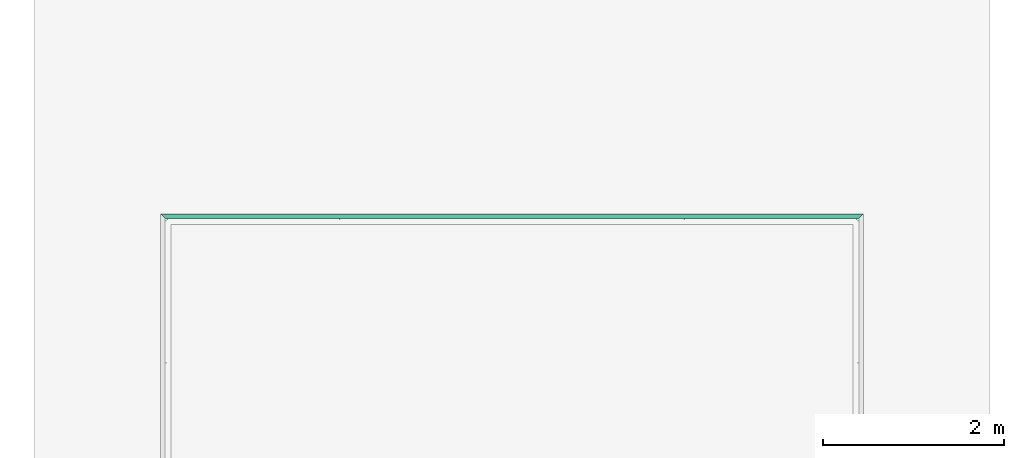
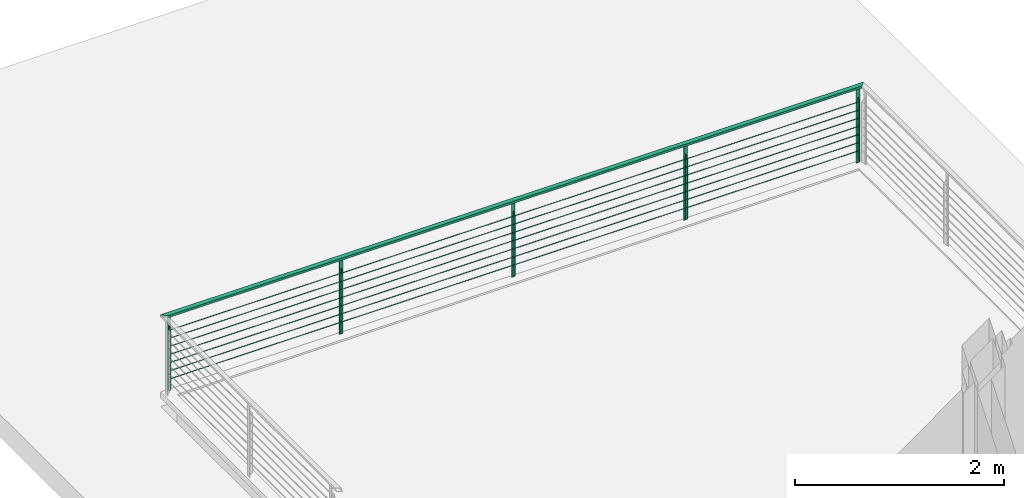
# One storey, part 21 of 24: 1 distribution element.
"""IFC2X3 building model written with IfcOpenShell, lengths in millimetres."""

import ifcopenshell
import ifcopenshell.guid

model = None  # the IFC model being written
_history = None  # IfcOwnerHistory: only IFC2X3 demands one
_inside = {}  # id of a spatial element -> (the spatial element, [elements in it])
_under = {}  # id of a project, library or spatial element -> (it, [spatial elements below it])
_declared = {}  # id of a project -> (the project, [libraries it declares])
_typed = {}  # id of a type object -> (the type object, [elements of that type])
_made_of = {}  # id of a material, layer set ... -> (it, [elements and type objects made of it])


def new_model(schema):
    """Start an empty IFC model of exactly this schema.

    Asked for "IFC4X3", IfcOpenShell would pick the latest addendum, in which some entities
    have other attributes; the version numbers below select the first issue.
    IFC2X3 requires an IfcOwnerHistory on every rooted entity: one is made here for all.
    """
    global model, _history
    if schema == "IFC4X3":
        model = ifcopenshell.file(schema_version=(4, 3, 0, 0))
    else:
        model = ifcopenshell.file(schema=schema)
    _inside.clear()
    _under.clear()
    _declared.clear()
    _typed.clear()
    _made_of.clear()
    _history = None
    if model.schema == "IFC2X3":
        org = make("IfcOrganization", Name="unknown")
        user = make(
            "IfcPersonAndOrganization",
            ThePerson=make("IfcPerson", FamilyName="unknown"),
            TheOrganization=org,
        )
        app = make(
            "IfcApplication",
            ApplicationDeveloper=org,
            Version="unknown",
            ApplicationFullName="unknown",
            ApplicationIdentifier="unknown",
        )
        _history = make(
            "IfcOwnerHistory",
            OwningUser=user,
            OwningApplication=app,
            ChangeAction="ADDED",
            CreationDate=0,
        )
    return model


def make(cls, **values):
    """One entity of the class cls with the attributes given. An attribute that is None is left unset."""
    return model.create_entity(
        cls, **{name: value for name, value in values.items() if value is not None}
    )


def entity(cls, *values):
    """Any entity or typed value of the class cls, its attributes in the order of the schema. None: left unset."""
    e = model.create_entity(cls)
    for i, value in enumerate(values):
        if value is not None:
            e[i] = value
    return e


def rooted(cls, **values):
    """An entity with a GlobalId (a new one), such as an element, a storey or a relation."""
    return make(cls, GlobalId=ifcopenshell.guid.new(), OwnerHistory=_history, **values)


def si_unit(unit_type, name, prefix=None):
    """IfcSIUnit, for example si_unit("LENGTHUNIT", "METRE", prefix="MILLI")."""
    return make("IfcSIUnit", UnitType=unit_type, Prefix=prefix, Name=name)


def converted_unit(unit_type, name, factor, base, dimensions=None, offset=None):
    """IfcConversionBasedUnit, such as the inch: factor (a typed value) times the base unit."""
    return make(
        "IfcConversionBasedUnit"
        if offset is None
        else "IfcConversionBasedUnitWithOffset",
        ConversionOffset=offset,
        Dimensions=None
        if dimensions is None
        else entity("IfcDimensionalExponents", *dimensions),
        UnitType=unit_type,
        Name=name,
        ConversionFactor=make(
            "IfcMeasureWithUnit", ValueComponent=factor, UnitComponent=base
        ),
    )


def money_unit(currency):
    """IfcMonetaryUnit."""
    return make("IfcMonetaryUnit", Currency=currency)


def assignment(units):
    """IfcUnitAssignment: the units of a project."""
    return None if units is None else make("IfcUnitAssignment", Units=units)


def point(xyz):
    """IfcCartesianPoint."""
    return None if xyz is None else make("IfcCartesianPoint", Coordinates=xyz)


def direction(xyz):
    """IfcDirection."""
    return None if xyz is None else make("IfcDirection", DirectionRatios=xyz)


def frame(location, z_axis=None, x_axis=None):
    """IfcAxis2Placement3D, a coordinate frame: its origin and axes. An axis left out is left unset."""
    return make(
        "IfcAxis2Placement3D",
        Location=point(location),
        Axis=direction(z_axis),
        RefDirection=direction(x_axis),
    )


def origin_with_axes():
    """The frame at (0, 0, 0) with the z axis (0, 0, 1) and the x axis (1, 0, 0) written out."""
    return frame((0.0, 0.0, 0.0), z_axis=(0.0, 0.0, 1.0), x_axis=(1.0, 0.0, 0.0))


def place(relative_to, where):
    """IfcLocalPlacement: puts the frame where relative to a parent placement (None: the world)."""
    return make(
        "IfcLocalPlacement", PlacementRelTo=relative_to, RelativePlacement=where
    )


def context(
    kind, dimensions, precision=None, world=None, true_north=None, identifier=None
):
    """IfcGeometricRepresentationContext, for example the 3D "Model" context."""
    return make(
        "IfcGeometricRepresentationContext",
        ContextIdentifier=identifier,
        ContextType=kind,
        CoordinateSpaceDimension=dimensions,
        Precision=precision,
        WorldCoordinateSystem=world,
        TrueNorth=true_north,
    )


def subcontext(parent, identifier, kind, view, scale=None):
    """IfcGeometricRepresentationSubContext, for example "Body" below "Model"."""
    return make(
        "IfcGeometricRepresentationSubContext",
        ContextIdentifier=identifier,
        ContextType=kind,
        ParentContext=parent,
        TargetScale=scale,
        TargetView=view,
    )


def project(units=None, contexts=None):
    """IfcProject with its units and contexts."""
    return rooted(
        "IfcProject",
        Name="project",
        RepresentationContexts=contexts,
        UnitsInContext=assignment(units),
    )


def spatial(cls, under=None, at=None, **own):
    """A site, building, storey or space (cls), placed at a placement, below another one or the project."""
    s = rooted(cls, ObjectPlacement=at, **own)
    if under is not None:
        _under.setdefault(under.id(), (under, []))[1].append(s)
    return s


def faces_of(points, faces, orient=None, outer=None):
    """IfcFace entities. A face is a list of loops; a loop is a list of indices into points, from 0.

    orient and outer hold one flag for each loop. By default every Orientation is true, the
    first loop of a face is its IfcFaceOuterBound and the others are IfcFaceBound.
    """
    made = []
    for i, loops in enumerate(faces):
        bounds = []
        for j, loop in enumerate(loops):
            is_outer = j == 0 if outer is None else outer[i][j]
            bounds.append(
                make(
                    "IfcFaceOuterBound" if is_outer else "IfcFaceBound",
                    Bound=make("IfcPolyLoop", Polygon=[points[k] for k in loop]),
                    Orientation=True if orient is None else orient[i][j],
                )
            )
        made.append(make("IfcFace", Bounds=bounds))
    return made


def faceted_brep(points, faces, orient=None, outer=None, voids=None):
    """IfcFacetedBrep: a solid bounded by flat faces; with voids (closed shells), ...WithVoids."""
    shared = [point(p) for p in points]
    hull = make("IfcClosedShell", CfsFaces=faces_of(shared, faces, orient, outer))
    if voids is None:
        return make("IfcFacetedBrep", Outer=hull)
    return make(
        "IfcFacetedBrepWithVoids",
        Outer=hull,
        Voids=[
            make(cls, CfsFaces=faces_of(shared, fs, o, b)) for cls, fs, o, b in voids
        ],
    )


def shape(context_of_items, identifier, shape_type, items):
    """IfcShapeRepresentation: the items that make up one representation, for example the "Body"."""
    return make(
        "IfcShapeRepresentation",
        ContextOfItems=context_of_items,
        RepresentationIdentifier=identifier,
        RepresentationType=shape_type,
        Items=items,
    )


def material(Name=None, Category=None):
    """IfcMaterial."""
    return make("IfcMaterial", Name=Name, Category=Category)


def made_of(thing, what):
    """Note that an element or type object is made of a material, layer set ...; save() writes the relation."""
    if what is not None:
        _made_of.setdefault(what.id(), (what, []))[1].append(thing)
    return thing


def type_object(cls, material=None, **own):
    """A type object (cls), such as IfcWallType, which elements share."""
    return made_of(rooted(cls, **own), material)


def element(
    cls,
    number,
    at=None,
    inside=None,
    cuts=None,
    type_object=None,
    material=None,
    context=None,
    identifier="Body",
    shape_type=None,
    held_by="IfcProductDefinitionShape",
    body=None,
    shapes=None,
    **own,
):
    """One element of the class cls, such as IfcWall. Its Tag is "e" and its number.

    at: its placement. inside: the storey or other place that contains it. cuts: it is an
    opening in that element (IfcRelVoidsElement). A single representation is given by context,
    identifier, shape_type and body (its items); several are given by shapes. held_by: the class
    of the entity that holds the representations. save() writes the other relations.
    """
    e = rooted(cls, Tag="e%d" % number, ObjectPlacement=at, **own)
    if body is not None:
        shapes = [shape(context, identifier, shape_type, body)]
    if shapes is not None:
        e.Representation = make(held_by, Representations=shapes)
    if inside is not None:
        _inside.setdefault(inside.id(), (inside, []))[1].append(e)
    if cuts is not None:
        rooted(
            "IfcRelVoidsElement", RelatingBuildingElement=cuts, RelatedOpeningElement=e
        )
    if type_object is not None:
        _typed.setdefault(type_object.id(), (type_object, []))[1].append(e)
    return made_of(e, material)


def aggregate(whole, parts):
    """IfcRelAggregates: a whole, such as a stair, and the parts it consists of."""
    return rooted("IfcRelAggregates", RelatingObject=whole, RelatedObjects=parts)


def save(model, path):
    """Write the relations noted so far, then the file.

    IfcRelAggregates (storeys below a building ...), IfcRelContainedInSpatialStructure (elements
    in a storey), IfcRelDefinesByType, IfcRelAssociatesMaterial and IfcRelDeclares: one each for
    every whole, place, type object, material and project.
    """
    for whole, parts in _under.values():
        aggregate(whole, parts)
    for where, things in _inside.values():
        rooted(
            "IfcRelContainedInSpatialStructure",
            RelatedElements=things,
            RelatingStructure=where,
        )
    for kind, things in _typed.values():
        rooted("IfcRelDefinesByType", RelatedObjects=things, RelatingType=kind)
    for what, things in _made_of.values():
        rooted("IfcRelAssociatesMaterial", RelatedObjects=things, RelatingMaterial=what)
    for by, libraries in _declared.values():
        rooted("IfcRelDeclares", RelatingContext=by, RelatedDefinitions=libraries)
    model.write(path)


model = new_model("IFC2X3")

# Units and contexts
model_context = context("Model", 3, precision=1e-05, world=origin_with_axes(), true_north=direction((0.0, 1.0)))
body_context = subcontext(model_context, "Body", "Model", "MODEL_VIEW")
ifc_project = project(units=[si_unit("LENGTHUNIT", "METRE", prefix="MILLI"), si_unit("AREAUNIT", "SQUARE_METRE"), si_unit("VOLUMEUNIT", "CUBIC_METRE"), converted_unit("PLANEANGLEUNIT", "DEGREE", entity("IfcPlaneAngleMeasure", 0.0174532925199), si_unit("PLANEANGLEUNIT", "RADIAN"), dimensions=[0, 0, 0, 0, 0, 0, 0]), si_unit("SOLIDANGLEUNIT", "STERADIAN"), money_unit("USD"), converted_unit("TIMEUNIT", "Year", entity("IfcTimeMeasure", 31556926.0), si_unit("TIMEUNIT", "SECOND"), dimensions=[0, 0, 0, 0, 0, 0, 0]), si_unit("MASSUNIT", "GRAM"), si_unit("THERMODYNAMICTEMPERATUREUNIT", "DEGREE_CELSIUS"), si_unit("LUMINOUSINTENSITYUNIT", "LUMEN")], contexts=[model_context])

# Site, building, storey
site_placement = place(None, origin_with_axes())
site = spatial("IfcSite", under=ifc_project, at=site_placement, Name="Grove Residential", CompositionType="ELEMENT")
building_placement = place(site_placement, origin_with_axes())
building = spatial("IfcBuilding", under=site, at=building_placement, Name="Building", CompositionType="ELEMENT")
storey_placement = place(building_placement, frame((0.0, 0.0, 3740.0), z_axis=(0.0, 0.0, 1.0), x_axis=(1.0, 0.0, 0.0)))
storey = spatial("IfcBuildingStorey", under=building, at=storey_placement, Name="First Floor", CompositionType="ELEMENT", Elevation=3740.0)

# Distribution element
ifc_material = material(Name="Background")
distribution_element_type = type_object("IfcDistributionElementType", Name="Rail Wired 02 20")
distribution_element_placement = place(storey_placement, frame((1524.99988526, 12775.0, -80.0), z_axis=(0.0, 0.0, 1.0), x_axis=(1.0, 0.0, 0.0)))
element("IfcDistributionElement", 1, at=distribution_element_placement, inside=storey, type_object=distribution_element_type, material=ifc_material, Name="FU - 001", context=body_context, shape_type="Brep", body=[
    faceted_brep([(-25.0, 25.0, 875.0), (-25.0, 25.0, 875.0), (-25.0, 25.0, 900.0), (-25.0, 25.0, 900.0), (7725.00011474, 25.0, 875.0), (7725.00011474, 25.0, 875.0), (7675.00011474, -25.0, 875.0), (25.0, -25.0, 875.0), (25.0, -25.0, 900.0), (7675.00011474, -25.0, 900.0), (7725.00011474, 25.0, 900.0), (7725.00011474, 25.0, 900.0)], [[[0, 1, 2, 3]], [[0, 4, 5, 6, 7, 1]], [[1, 7, 8, 2]], [[3, 2, 8, 9, 10, 11]], [[4, 0, 3, 11]], [[5, 4, 11, 10]], [[6, 5, 10, 9]], [[7, 6, 9, 8]]]),
    faceted_brep([(30.0, -2.0, 0.0), (70.0, -2.0, 0.0), (70.0, -2.0, 871.0), (30.0, -2.0, 871.0), (30.0, 2.0, 0.0), (70.0, 2.0, 0.0), (70.0, 2.0, 871.0), (30.0, 2.0, 871.0)], [[[0, 1, 2, 3]], [[0, 4, 5, 1]], [[1, 5, 6, 2]], [[3, 2, 6, 7]], [[4, 0, 3, 7]], [[5, 4, 7, 6]]]),
    faceted_brep([(52.0, -38.0, 36.0), (52.0, -38.0, 731.0), (48.0, -38.0, 731.0), (48.0, -38.0, 36.0), (52.0, -2.0, 0.0), (52.0, -2.0, 767.0), (48.0, -2.0, 767.0), (48.0, -2.0, 0.0)], [[[0, 1, 2, 3]], [[0, 4, 5, 1]], [[1, 5, 6, 2]], [[3, 2, 6, 7]], [[4, 0, 3, 7]], [[5, 4, 7, 6]]]),
    faceted_brep([(1930.00002868, -2.0, 0.0), (1970.00002868, -2.0, 0.0), (1970.00002868, -2.0, 871.0), (1930.00002868, -2.0, 871.0), (1930.00002868, 2.0, 0.0), (1970.00002868, 2.0, 0.0), (1970.00002868, 2.0, 871.0), (1930.00002868, 2.0, 871.0)], [[[0, 1, 2, 3]], [[0, 4, 5, 1]], [[1, 5, 6, 2]], [[3, 2, 6, 7]], [[4, 0, 3, 7]], [[5, 4, 7, 6]]]),
    faceted_brep([(1952.00002868, -38.0, 36.0), (1952.00002868, -38.0, 731.0), (1948.00002868, -38.0, 731.0), (1948.00002868, -38.0, 36.0), (1952.00002868, -2.0, 0.0), (1952.00002868, -2.0, 767.0), (1948.00002868, -2.0, 767.0), (1948.00002868, -2.0, 0.0)], [[[0, 1, 2, 3]], [[0, 4, 5, 1]], [[1, 5, 6, 2]], [[3, 2, 6, 7]], [[4, 0, 3, 7]], [[5, 4, 7, 6]]]),
    faceted_brep([(3830.00005737, -2.0, 0.0), (3870.00005737, -2.0, 0.0), (3870.00005737, -2.0, 871.0), (3830.00005737, -2.0, 871.0), (3830.00005737, 2.0, 0.0), (3870.00005737, 2.0, 0.0), (3870.00005737, 2.0, 871.0), (3830.00005737, 2.0, 871.0)], [[[0, 1, 2, 3]], [[0, 4, 5, 1]], [[1, 5, 6, 2]], [[3, 2, 6, 7]], [[4, 0, 3, 7]], [[5, 4, 7, 6]]]),
    faceted_brep([(3852.00005737, -38.0, 36.0), (3852.00005737, -38.0, 731.0), (3848.00005737, -38.0, 731.0), (3848.00005737, -38.0, 36.0), (3852.00005737, -2.0, 0.0), (3852.00005737, -2.0, 767.0), (3848.00005737, -2.0, 767.0), (3848.00005737, -2.0, 0.0)], [[[0, 1, 2, 3]], [[0, 4, 5, 1]], [[1, 5, 6, 2]], [[3, 2, 6, 7]], [[4, 0, 3, 7]], [[5, 4, 7, 6]]]),
    faceted_brep([(5730.00008605, -2.0, 0.0), (5770.00008605, -2.0, 0.0), (5770.00008605, -2.0, 871.0), (5730.00008605, -2.0, 871.0), (5730.00008605, 2.0, 0.0), (5770.00008605, 2.0, 0.0), (5770.00008605, 2.0, 871.0), (5730.00008605, 2.0, 871.0)], [[[0, 1, 2, 3]], [[0, 4, 5, 1]], [[1, 5, 6, 2]], [[3, 2, 6, 7]], [[4, 0, 3, 7]], [[5, 4, 7, 6]]]),
    faceted_brep([(5752.00008605, -38.0, 36.0), (5752.00008605, -38.0, 731.0), (5748.00008605, -38.0, 731.0), (5748.00008605, -38.0, 36.0), (5752.00008605, -2.0, 0.0), (5752.00008605, -2.0, 767.0), (5748.00008605, -2.0, 767.0), (5748.00008605, -2.0, 0.0)], [[[0, 1, 2, 3]], [[0, 4, 5, 1]], [[1, 5, 6, 2]], [[3, 2, 6, 7]], [[4, 0, 3, 7]], [[5, 4, 7, 6]]]),
    faceted_brep([(7630.00011474, -2.0, 0.0), (7670.00011474, -2.0, 0.0), (7670.00011474, -2.0, 871.0), (7630.00011474, -2.0, 871.0), (7630.00011474, 2.0, 0.0), (7670.00011474, 2.0, 0.0), (7670.00011474, 2.0, 871.0), (7630.00011474, 2.0, 871.0)], [[[0, 1, 2, 3]], [[0, 4, 5, 1]], [[1, 5, 6, 2]], [[3, 2, 6, 7]], [[4, 0, 3, 7]], [[5, 4, 7, 6]]]),
    faceted_brep([(7652.00011474, -38.0, 36.0), (7652.00011474, -38.0, 731.0), (7648.00011474, -38.0, 731.0), (7648.00011474, -38.0, 36.0), (7652.00011474, -2.0, 0.0), (7652.00011474, -2.0, 767.0), (7648.00011474, -2.0, 767.0), (7648.00011474, -2.0, 0.0)], [[[0, 1, 2, 3]], [[0, 4, 5, 1]], [[1, 5, 6, 2]], [[3, 2, 6, 7]], [[4, 0, 3, 7]], [[5, 4, 7, 6]]]),
    faceted_brep([(20.0, -15.0, 871.0), (80.0, -15.0, 871.0), (80.0, -15.0, 875.0), (20.0, -15.0, 875.0), (20.0, 15.0, 871.0), (80.0, 15.0, 871.0), (80.0, 15.0, 875.0), (20.0, 15.0, 875.0)], [[[0, 1, 2, 3]], [[0, 4, 5, 1]], [[1, 5, 6, 2]], [[3, 2, 6, 7]], [[4, 0, 3, 7]], [[5, 4, 7, 6]]]),
    faceted_brep([(1920.00002868, -15.0, 871.0), (1980.00002868, -15.0, 871.0), (1980.00002868, -15.0, 875.0), (1920.00002868, -15.0, 875.0), (1920.00002868, 15.0, 871.0), (1980.00002868, 15.0, 871.0), (1980.00002868, 15.0, 875.0), (1920.00002868, 15.0, 875.0)], [[[0, 1, 2, 3]], [[0, 4, 5, 1]], [[1, 5, 6, 2]], [[3, 2, 6, 7]], [[4, 0, 3, 7]], [[5, 4, 7, 6]]]),
    faceted_brep([(3820.00005737, -15.0, 871.0), (3880.00005737, -15.0, 871.0), (3880.00005737, -15.0, 875.0), (3820.00005737, -15.0, 875.0), (3820.00005737, 15.0, 871.0), (3880.00005737, 15.0, 871.0), (3880.00005737, 15.0, 875.0), (3820.00005737, 15.0, 875.0)], [[[0, 1, 2, 3]], [[0, 4, 5, 1]], [[1, 5, 6, 2]], [[3, 2, 6, 7]], [[4, 0, 3, 7]], [[5, 4, 7, 6]]]),
    faceted_brep([(5720.00008605, -15.0, 871.0), (5780.00008605, -15.0, 871.0), (5780.00008605, -15.0, 875.0), (5720.00008605, -15.0, 875.0), (5720.00008605, 15.0, 871.0), (5780.00008605, 15.0, 871.0), (5780.00008605, 15.0, 875.0), (5720.00008605, 15.0, 875.0)], [[[0, 1, 2, 3]], [[0, 4, 5, 1]], [[1, 5, 6, 2]], [[3, 2, 6, 7]], [[4, 0, 3, 7]], [[5, 4, 7, 6]]]),
    faceted_brep([(7620.00011474, -15.0, 871.0), (7680.00011474, -15.0, 871.0), (7680.00011474, -15.0, 875.0), (7620.00011474, -15.0, 875.0), (7620.00011474, 15.0, 871.0), (7680.00011474, 15.0, 871.0), (7680.00011474, 15.0, 875.0), (7620.00011474, 15.0, 875.0)], [[[0, 1, 2, 3]], [[0, 4, 5, 1]], [[1, 5, 6, 2]], [[3, 2, 6, 7]], [[4, 0, 3, 7]], [[5, 4, 7, 6]]]),
    faceted_brep([(7630.00011474, -22.0, 155.0), (7630.00011474, -18.0, 155.0), (7650.00011474, -18.0, 155.0), (7650.00011474, -17.5, 155.0), (50.0, -17.5, 155.0), (50.0, -18.0, 155.0), (70.0, -18.0, 155.0), (70.0, -22.0, 155.0), (52.0, -22.0, 155.0), (52.0, -22.5, 155.0), (1948.00002868, -22.5, 155.0), (1948.00002868, -22.0, 155.0), (1930.00002868, -22.0, 155.0), (1930.00002868, -18.0, 155.0), (1970.00002868, -18.0, 155.0), (1970.00002868, -22.0, 155.0), (1952.00002868, -22.0, 155.0), (1952.00002868, -22.5, 155.0), (3848.00005737, -22.5, 155.0), (3848.00005737, -22.0, 155.0), (3830.00005737, -22.0, 155.0), (3830.00005737, -18.0, 155.0), (3870.00005737, -18.0, 155.0), (3870.00005737, -22.0, 155.0), (3852.00005737, -22.0, 155.0), (3852.00005737, -22.5, 155.0), (5748.00008605, -22.5, 155.0), (5748.00008605, -22.0, 155.0), (5730.00008605, -22.0, 155.0), (5730.00008605, -18.0, 155.0), (5770.00008605, -18.0, 155.0), (5770.00008605, -22.0, 155.0), (5752.00008605, -22.0, 155.0), (5752.00008605, -22.5, 155.0), (7648.00011474, -22.5, 155.0), (7648.00011474, -22.0, 155.0), (7630.00011474, -22.0, 150.0), (7630.00011474, -18.0, 150.0), (7650.00011474, -18.0, 150.0), (7650.00011474, -17.5, 150.0), (50.0, -17.5, 150.0), (50.0, -18.0, 150.0), (70.0, -18.0, 150.0), (70.0, -22.0, 150.0), (52.0, -22.0, 150.0), (52.0, -22.5, 150.0), (1948.00002868, -22.5, 150.0), (1948.00002868, -22.0, 150.0), (1930.00002868, -22.0, 150.0), (1930.00002868, -18.0, 150.0), (1970.00002868, -18.0, 150.0), (1970.00002868, -22.0, 150.0), (1952.00002868, -22.0, 150.0), (1952.00002868, -22.5, 150.0), (3848.00005737, -22.5, 150.0), (3848.00005737, -22.0, 150.0), (3830.00005737, -22.0, 150.0), (3830.00005737, -18.0, 150.0), (3870.00005737, -18.0, 150.0), (3870.00005737, -22.0, 150.0), (3852.00005737, -22.0, 150.0), (3852.00005737, -22.5, 150.0), (5748.00008605, -22.5, 150.0), (5748.00008605, -22.0, 150.0), (5730.00008605, -22.0, 150.0), (5730.00008605, -18.0, 150.0), (5770.00008605, -18.0, 150.0), (5770.00008605, -22.0, 150.0), (5752.00008605, -22.0, 150.0), (5752.00008605, -22.5, 150.0), (7648.00011474, -22.5, 150.0), (7648.00011474, -22.0, 150.0)], [[[0, 1, 2, 3, 4, 5, 6, 7, 8, 9, 10, 11, 12, 13, 14, 15, 16, 17, 18, 19, 20, 21, 22, 23, 24, 25, 26, 27, 28, 29, 30, 31, 32, 33, 34, 35]], [[1, 0, 36, 37]], [[38, 2, 1, 37]], [[2, 38, 39, 3]], [[3, 39, 40, 4]], [[41, 5, 4, 40]], [[6, 5, 41, 42]], [[7, 6, 42, 43]], [[44, 8, 7, 43]], [[9, 8, 44, 45]], [[46, 10, 9, 45]], [[47, 11, 10, 46]], [[11, 47, 48, 12]], [[13, 12, 48, 49]], [[14, 13, 49, 50]], [[15, 14, 50, 51]], [[52, 16, 15, 51]], [[17, 16, 52, 53]], [[54, 18, 17, 53]], [[55, 19, 18, 54]], [[19, 55, 56, 20]], [[21, 20, 56, 57]], [[22, 21, 57, 58]], [[23, 22, 58, 59]], [[60, 24, 23, 59]], [[25, 24, 60, 61]], [[62, 26, 25, 61]], [[63, 27, 26, 62]], [[27, 63, 64, 28]], [[29, 28, 64, 65]], [[30, 29, 65, 66]], [[31, 30, 66, 67]], [[68, 32, 31, 67]], [[33, 32, 68, 69]], [[33, 69, 70, 34]], [[71, 35, 34, 70]], [[0, 35, 71, 36]], [[36, 71, 70, 69, 68, 67, 66, 65, 64, 63, 62, 61, 60, 59, 58, 57, 56, 55, 54, 53, 52, 51, 50, 49, 48, 47, 46, 45, 44, 43, 42, 41, 40, 39, 38, 37]]]),
    faceted_brep([(7630.00011474, -22.0, 250.0), (7630.00011474, -18.0, 250.0), (7650.00011474, -18.0, 250.0), (7650.00011474, -17.5, 250.0), (50.0, -17.5, 250.0), (50.0, -18.0, 250.0), (70.0, -18.0, 250.0), (70.0, -22.0, 250.0), (52.0, -22.0, 250.0), (52.0, -22.5, 250.0), (1948.00002868, -22.5, 250.0), (1948.00002868, -22.0, 250.0), (1930.00002868, -22.0, 250.0), (1930.00002868, -18.0, 250.0), (1970.00002868, -18.0, 250.0), (1970.00002868, -22.0, 250.0), (1952.00002868, -22.0, 250.0), (1952.00002868, -22.5, 250.0), (3848.00005737, -22.5, 250.0), (3848.00005737, -22.0, 250.0), (3830.00005737, -22.0, 250.0), (3830.00005737, -18.0, 250.0), (3870.00005737, -18.0, 250.0), (3870.00005737, -22.0, 250.0), (3852.00005737, -22.0, 250.0), (3852.00005737, -22.5, 250.0), (5748.00008605, -22.5, 250.0), (5748.00008605, -22.0, 250.0), (5730.00008605, -22.0, 250.0), (5730.00008605, -18.0, 250.0), (5770.00008605, -18.0, 250.0), (5770.00008605, -22.0, 250.0), (5752.00008605, -22.0, 250.0), (5752.00008605, -22.5, 250.0), (7648.00011474, -22.5, 250.0), (7648.00011474, -22.0, 250.0), (7630.00011474, -22.0, 245.0), (7630.00011474, -18.0, 245.0), (7650.00011474, -18.0, 245.0), (7650.00011474, -17.5, 245.0), (50.0, -17.5, 245.0), (50.0, -18.0, 245.0), (70.0, -18.0, 245.0), (70.0, -22.0, 245.0), (52.0, -22.0, 245.0), (52.0, -22.5, 245.0), (1948.00002868, -22.5, 245.0), (1948.00002868, -22.0, 245.0), (1930.00002868, -22.0, 245.0), (1930.00002868, -18.0, 245.0), (1970.00002868, -18.0, 245.0), (1970.00002868, -22.0, 245.0), (1952.00002868, -22.0, 245.0), (1952.00002868, -22.5, 245.0), (3848.00005737, -22.5, 245.0), (3848.00005737, -22.0, 245.0), (3830.00005737, -22.0, 245.0), (3830.00005737, -18.0, 245.0), (3870.00005737, -18.0, 245.0), (3870.00005737, -22.0, 245.0), (3852.00005737, -22.0, 245.0), (3852.00005737, -22.5, 245.0), (5748.00008605, -22.5, 245.0), (5748.00008605, -22.0, 245.0), (5730.00008605, -22.0, 245.0), (5730.00008605, -18.0, 245.0), (5770.00008605, -18.0, 245.0), (5770.00008605, -22.0, 245.0), (5752.00008605, -22.0, 245.0), (5752.00008605, -22.5, 245.0), (7648.00011474, -22.5, 245.0), (7648.00011474, -22.0, 245.0)], [[[0, 1, 2, 3, 4, 5, 6, 7, 8, 9, 10, 11, 12, 13, 14, 15, 16, 17, 18, 19, 20, 21, 22, 23, 24, 25, 26, 27, 28, 29, 30, 31, 32, 33, 34, 35]], [[1, 0, 36, 37]], [[38, 2, 1, 37]], [[2, 38, 39, 3]], [[3, 39, 40, 4]], [[41, 5, 4, 40]], [[6, 5, 41, 42]], [[7, 6, 42, 43]], [[44, 8, 7, 43]], [[9, 8, 44, 45]], [[46, 10, 9, 45]], [[47, 11, 10, 46]], [[11, 47, 48, 12]], [[13, 12, 48, 49]], [[14, 13, 49, 50]], [[15, 14, 50, 51]], [[52, 16, 15, 51]], [[17, 16, 52, 53]], [[54, 18, 17, 53]], [[55, 19, 18, 54]], [[19, 55, 56, 20]], [[21, 20, 56, 57]], [[22, 21, 57, 58]], [[23, 22, 58, 59]], [[60, 24, 23, 59]], [[25, 24, 60, 61]], [[62, 26, 25, 61]], [[63, 27, 26, 62]], [[27, 63, 64, 28]], [[29, 28, 64, 65]], [[30, 29, 65, 66]], [[31, 30, 66, 67]], [[68, 32, 31, 67]], [[33, 32, 68, 69]], [[33, 69, 70, 34]], [[71, 35, 34, 70]], [[0, 35, 71, 36]], [[36, 71, 70, 69, 68, 67, 66, 65, 64, 63, 62, 61, 60, 59, 58, 57, 56, 55, 54, 53, 52, 51, 50, 49, 48, 47, 46, 45, 44, 43, 42, 41, 40, 39, 38, 37]]]),
    faceted_brep([(7630.00011474, -22.0, 345.0), (7630.00011474, -18.0, 345.0), (7650.00011474, -18.0, 345.0), (7650.00011474, -17.5, 345.0), (50.0, -17.5, 345.0), (50.0, -18.0, 345.0), (70.0, -18.0, 345.0), (70.0, -22.0, 345.0), (52.0, -22.0, 345.0), (52.0, -22.5, 345.0), (1948.00002868, -22.5, 345.0), (1948.00002868, -22.0, 345.0), (1930.00002868, -22.0, 345.0), (1930.00002868, -18.0, 345.0), (1970.00002868, -18.0, 345.0), (1970.00002868, -22.0, 345.0), (1952.00002868, -22.0, 345.0), (1952.00002868, -22.5, 345.0), (3848.00005737, -22.5, 345.0), (3848.00005737, -22.0, 345.0), (3830.00005737, -22.0, 345.0), (3830.00005737, -18.0, 345.0), (3870.00005737, -18.0, 345.0), (3870.00005737, -22.0, 345.0), (3852.00005737, -22.0, 345.0), (3852.00005737, -22.5, 345.0), (5748.00008605, -22.5, 345.0), (5748.00008605, -22.0, 345.0), (5730.00008605, -22.0, 345.0), (5730.00008605, -18.0, 345.0), (5770.00008605, -18.0, 345.0), (5770.00008605, -22.0, 345.0), (5752.00008605, -22.0, 345.0), (5752.00008605, -22.5, 345.0), (7648.00011474, -22.5, 345.0), (7648.00011474, -22.0, 345.0), (7630.00011474, -22.0, 340.0), (7630.00011474, -18.0, 340.0), (7650.00011474, -18.0, 340.0), (7650.00011474, -17.5, 340.0), (50.0, -17.5, 340.0), (50.0, -18.0, 340.0), (70.0, -18.0, 340.0), (70.0, -22.0, 340.0), (52.0, -22.0, 340.0), (52.0, -22.5, 340.0), (1948.00002868, -22.5, 340.0), (1948.00002868, -22.0, 340.0), (1930.00002868, -22.0, 340.0), (1930.00002868, -18.0, 340.0), (1970.00002868, -18.0, 340.0), (1970.00002868, -22.0, 340.0), (1952.00002868, -22.0, 340.0), (1952.00002868, -22.5, 340.0), (3848.00005737, -22.5, 340.0), (3848.00005737, -22.0, 340.0), (3830.00005737, -22.0, 340.0), (3830.00005737, -18.0, 340.0), (3870.00005737, -18.0, 340.0), (3870.00005737, -22.0, 340.0), (3852.00005737, -22.0, 340.0), (3852.00005737, -22.5, 340.0), (5748.00008605, -22.5, 340.0), (5748.00008605, -22.0, 340.0), (5730.00008605, -22.0, 340.0), (5730.00008605, -18.0, 340.0), (5770.00008605, -18.0, 340.0), (5770.00008605, -22.0, 340.0), (5752.00008605, -22.0, 340.0), (5752.00008605, -22.5, 340.0), (7648.00011474, -22.5, 340.0), (7648.00011474, -22.0, 340.0)], [[[0, 1, 2, 3, 4, 5, 6, 7, 8, 9, 10, 11, 12, 13, 14, 15, 16, 17, 18, 19, 20, 21, 22, 23, 24, 25, 26, 27, 28, 29, 30, 31, 32, 33, 34, 35]], [[1, 0, 36, 37]], [[38, 2, 1, 37]], [[2, 38, 39, 3]], [[3, 39, 40, 4]], [[41, 5, 4, 40]], [[6, 5, 41, 42]], [[7, 6, 42, 43]], [[44, 8, 7, 43]], [[9, 8, 44, 45]], [[46, 10, 9, 45]], [[47, 11, 10, 46]], [[11, 47, 48, 12]], [[13, 12, 48, 49]], [[14, 13, 49, 50]], [[15, 14, 50, 51]], [[52, 16, 15, 51]], [[17, 16, 52, 53]], [[54, 18, 17, 53]], [[55, 19, 18, 54]], [[19, 55, 56, 20]], [[21, 20, 56, 57]], [[22, 21, 57, 58]], [[23, 22, 58, 59]], [[60, 24, 23, 59]], [[25, 24, 60, 61]], [[62, 26, 25, 61]], [[63, 27, 26, 62]], [[27, 63, 64, 28]], [[29, 28, 64, 65]], [[30, 29, 65, 66]], [[31, 30, 66, 67]], [[68, 32, 31, 67]], [[33, 32, 68, 69]], [[33, 69, 70, 34]], [[71, 35, 34, 70]], [[0, 35, 71, 36]], [[36, 71, 70, 69, 68, 67, 66, 65, 64, 63, 62, 61, 60, 59, 58, 57, 56, 55, 54, 53, 52, 51, 50, 49, 48, 47, 46, 45, 44, 43, 42, 41, 40, 39, 38, 37]]]),
    faceted_brep([(7630.00011474, -22.0, 440.0), (7630.00011474, -18.0, 440.0), (7650.00011474, -18.0, 440.0), (7650.00011474, -17.5, 440.0), (50.0, -17.5, 440.0), (50.0, -18.0, 440.0), (70.0, -18.0, 440.0), (70.0, -22.0, 440.0), (52.0, -22.0, 440.0), (52.0, -22.5, 440.0), (1948.00002868, -22.5, 440.0), (1948.00002868, -22.0, 440.0), (1930.00002868, -22.0, 440.0), (1930.00002868, -18.0, 440.0), (1970.00002868, -18.0, 440.0), (1970.00002868, -22.0, 440.0), (1952.00002868, -22.0, 440.0), (1952.00002868, -22.5, 440.0), (3848.00005737, -22.5, 440.0), (3848.00005737, -22.0, 440.0), (3830.00005737, -22.0, 440.0), (3830.00005737, -18.0, 440.0), (3870.00005737, -18.0, 440.0), (3870.00005737, -22.0, 440.0), (3852.00005737, -22.0, 440.0), (3852.00005737, -22.5, 440.0), (5748.00008605, -22.5, 440.0), (5748.00008605, -22.0, 440.0), (5730.00008605, -22.0, 440.0), (5730.00008605, -18.0, 440.0), (5770.00008605, -18.0, 440.0), (5770.00008605, -22.0, 440.0), (5752.00008605, -22.0, 440.0), (5752.00008605, -22.5, 440.0), (7648.00011474, -22.5, 440.0), (7648.00011474, -22.0, 440.0), (7630.00011474, -22.0, 435.0), (7630.00011474, -18.0, 435.0), (7650.00011474, -18.0, 435.0), (7650.00011474, -17.5, 435.0), (50.0, -17.5, 435.0), (50.0, -18.0, 435.0), (70.0, -18.0, 435.0), (70.0, -22.0, 435.0), (52.0, -22.0, 435.0), (52.0, -22.5, 435.0), (1948.00002868, -22.5, 435.0), (1948.00002868, -22.0, 435.0), (1930.00002868, -22.0, 435.0), (1930.00002868, -18.0, 435.0), (1970.00002868, -18.0, 435.0), (1970.00002868, -22.0, 435.0), (1952.00002868, -22.0, 435.0), (1952.00002868, -22.5, 435.0), (3848.00005737, -22.5, 435.0), (3848.00005737, -22.0, 435.0), (3830.00005737, -22.0, 435.0), (3830.00005737, -18.0, 435.0), (3870.00005737, -18.0, 435.0), (3870.00005737, -22.0, 435.0), (3852.00005737, -22.0, 435.0), (3852.00005737, -22.5, 435.0), (5748.00008605, -22.5, 435.0), (5748.00008605, -22.0, 435.0), (5730.00008605, -22.0, 435.0), (5730.00008605, -18.0, 435.0), (5770.00008605, -18.0, 435.0), (5770.00008605, -22.0, 435.0), (5752.00008605, -22.0, 435.0), (5752.00008605, -22.5, 435.0), (7648.00011474, -22.5, 435.0), (7648.00011474, -22.0, 435.0)], [[[0, 1, 2, 3, 4, 5, 6, 7, 8, 9, 10, 11, 12, 13, 14, 15, 16, 17, 18, 19, 20, 21, 22, 23, 24, 25, 26, 27, 28, 29, 30, 31, 32, 33, 34, 35]], [[1, 0, 36, 37]], [[38, 2, 1, 37]], [[2, 38, 39, 3]], [[3, 39, 40, 4]], [[41, 5, 4, 40]], [[6, 5, 41, 42]], [[7, 6, 42, 43]], [[44, 8, 7, 43]], [[9, 8, 44, 45]], [[46, 10, 9, 45]], [[47, 11, 10, 46]], [[11, 47, 48, 12]], [[13, 12, 48, 49]], [[14, 13, 49, 50]], [[15, 14, 50, 51]], [[52, 16, 15, 51]], [[17, 16, 52, 53]], [[54, 18, 17, 53]], [[55, 19, 18, 54]], [[19, 55, 56, 20]], [[21, 20, 56, 57]], [[22, 21, 57, 58]], [[23, 22, 58, 59]], [[60, 24, 23, 59]], [[25, 24, 60, 61]], [[62, 26, 25, 61]], [[63, 27, 26, 62]], [[27, 63, 64, 28]], [[29, 28, 64, 65]], [[30, 29, 65, 66]], [[31, 30, 66, 67]], [[68, 32, 31, 67]], [[33, 32, 68, 69]], [[33, 69, 70, 34]], [[71, 35, 34, 70]], [[0, 35, 71, 36]], [[36, 71, 70, 69, 68, 67, 66, 65, 64, 63, 62, 61, 60, 59, 58, 57, 56, 55, 54, 53, 52, 51, 50, 49, 48, 47, 46, 45, 44, 43, 42, 41, 40, 39, 38, 37]]]),
    faceted_brep([(7630.00011474, -22.0, 535.0), (7630.00011474, -18.0, 535.0), (7650.00011474, -18.0, 535.0), (7650.00011474, -17.5, 535.0), (50.0, -17.5, 535.0), (50.0, -18.0, 535.0), (70.0, -18.0, 535.0), (70.0, -22.0, 535.0), (52.0, -22.0, 535.0), (52.0, -22.5, 535.0), (1948.00002868, -22.5, 535.0), (1948.00002868, -22.0, 535.0), (1930.00002868, -22.0, 535.0), (1930.00002868, -18.0, 535.0), (1970.00002868, -18.0, 535.0), (1970.00002868, -22.0, 535.0), (1952.00002868, -22.0, 535.0), (1952.00002868, -22.5, 535.0), (3848.00005737, -22.5, 535.0), (3848.00005737, -22.0, 535.0), (3830.00005737, -22.0, 535.0), (3830.00005737, -18.0, 535.0), (3870.00005737, -18.0, 535.0), (3870.00005737, -22.0, 535.0), (3852.00005737, -22.0, 535.0), (3852.00005737, -22.5, 535.0), (5748.00008605, -22.5, 535.0), (5748.00008605, -22.0, 535.0), (5730.00008605, -22.0, 535.0), (5730.00008605, -18.0, 535.0), (5770.00008605, -18.0, 535.0), (5770.00008605, -22.0, 535.0), (5752.00008605, -22.0, 535.0), (5752.00008605, -22.5, 535.0), (7648.00011474, -22.5, 535.0), (7648.00011474, -22.0, 535.0), (7630.00011474, -22.0, 530.0), (7630.00011474, -18.0, 530.0), (7650.00011474, -18.0, 530.0), (7650.00011474, -17.5, 530.0), (50.0, -17.5, 530.0), (50.0, -18.0, 530.0), (70.0, -18.0, 530.0), (70.0, -22.0, 530.0), (52.0, -22.0, 530.0), (52.0, -22.5, 530.0), (1948.00002868, -22.5, 530.0), (1948.00002868, -22.0, 530.0), (1930.00002868, -22.0, 530.0), (1930.00002868, -18.0, 530.0), (1970.00002868, -18.0, 530.0), (1970.00002868, -22.0, 530.0), (1952.00002868, -22.0, 530.0), (1952.00002868, -22.5, 530.0), (3848.00005737, -22.5, 530.0), (3848.00005737, -22.0, 530.0), (3830.00005737, -22.0, 530.0), (3830.00005737, -18.0, 530.0), (3870.00005737, -18.0, 530.0), (3870.00005737, -22.0, 530.0), (3852.00005737, -22.0, 530.0), (3852.00005737, -22.5, 530.0), (5748.00008605, -22.5, 530.0), (5748.00008605, -22.0, 530.0), (5730.00008605, -22.0, 530.0), (5730.00008605, -18.0, 530.0), (5770.00008605, -18.0, 530.0), (5770.00008605, -22.0, 530.0), (5752.00008605, -22.0, 530.0), (5752.00008605, -22.5, 530.0), (7648.00011474, -22.5, 530.0), (7648.00011474, -22.0, 530.0)], [[[0, 1, 2, 3, 4, 5, 6, 7, 8, 9, 10, 11, 12, 13, 14, 15, 16, 17, 18, 19, 20, 21, 22, 23, 24, 25, 26, 27, 28, 29, 30, 31, 32, 33, 34, 35]], [[1, 0, 36, 37]], [[38, 2, 1, 37]], [[2, 38, 39, 3]], [[3, 39, 40, 4]], [[41, 5, 4, 40]], [[6, 5, 41, 42]], [[7, 6, 42, 43]], [[44, 8, 7, 43]], [[9, 8, 44, 45]], [[46, 10, 9, 45]], [[47, 11, 10, 46]], [[11, 47, 48, 12]], [[13, 12, 48, 49]], [[14, 13, 49, 50]], [[15, 14, 50, 51]], [[52, 16, 15, 51]], [[17, 16, 52, 53]], [[54, 18, 17, 53]], [[55, 19, 18, 54]], [[19, 55, 56, 20]], [[21, 20, 56, 57]], [[22, 21, 57, 58]], [[23, 22, 58, 59]], [[60, 24, 23, 59]], [[25, 24, 60, 61]], [[62, 26, 25, 61]], [[63, 27, 26, 62]], [[27, 63, 64, 28]], [[29, 28, 64, 65]], [[30, 29, 65, 66]], [[31, 30, 66, 67]], [[68, 32, 31, 67]], [[33, 32, 68, 69]], [[33, 69, 70, 34]], [[71, 35, 34, 70]], [[0, 35, 71, 36]], [[36, 71, 70, 69, 68, 67, 66, 65, 64, 63, 62, 61, 60, 59, 58, 57, 56, 55, 54, 53, 52, 51, 50, 49, 48, 47, 46, 45, 44, 43, 42, 41, 40, 39, 38, 37]]]),
    faceted_brep([(7630.00011474, -22.0, 630.0), (7630.00011474, -18.0, 630.0), (7650.00011474, -18.0, 630.0), (7650.00011474, -17.5, 630.0), (50.0, -17.5, 630.0), (50.0, -18.0, 630.0), (70.0, -18.0, 630.0), (70.0, -22.0, 630.0), (52.0, -22.0, 630.0), (52.0, -22.5, 630.0), (1948.00002868, -22.5, 630.0), (1948.00002868, -22.0, 630.0), (1930.00002868, -22.0, 630.0), (1930.00002868, -18.0, 630.0), (1970.00002868, -18.0, 630.0), (1970.00002868, -22.0, 630.0), (1952.00002868, -22.0, 630.0), (1952.00002868, -22.5, 630.0), (3848.00005737, -22.5, 630.0), (3848.00005737, -22.0, 630.0), (3830.00005737, -22.0, 630.0), (3830.00005737, -18.0, 630.0), (3870.00005737, -18.0, 630.0), (3870.00005737, -22.0, 630.0), (3852.00005737, -22.0, 630.0), (3852.00005737, -22.5, 630.0), (5748.00008605, -22.5, 630.0), (5748.00008605, -22.0, 630.0), (5730.00008605, -22.0, 630.0), (5730.00008605, -18.0, 630.0), (5770.00008605, -18.0, 630.0), (5770.00008605, -22.0, 630.0), (5752.00008605, -22.0, 630.0), (5752.00008605, -22.5, 630.0), (7648.00011474, -22.5, 630.0), (7648.00011474, -22.0, 630.0), (7630.00011474, -22.0, 625.0), (7630.00011474, -18.0, 625.0), (7650.00011474, -18.0, 625.0), (7650.00011474, -17.5, 625.0), (50.0, -17.5, 625.0), (50.0, -18.0, 625.0), (70.0, -18.0, 625.0), (70.0, -22.0, 625.0), (52.0, -22.0, 625.0), (52.0, -22.5, 625.0), (1948.00002868, -22.5, 625.0), (1948.00002868, -22.0, 625.0), (1930.00002868, -22.0, 625.0), (1930.00002868, -18.0, 625.0), (1970.00002868, -18.0, 625.0), (1970.00002868, -22.0, 625.0), (1952.00002868, -22.0, 625.0), (1952.00002868, -22.5, 625.0), (3848.00005737, -22.5, 625.0), (3848.00005737, -22.0, 625.0), (3830.00005737, -22.0, 625.0), (3830.00005737, -18.0, 625.0), (3870.00005737, -18.0, 625.0), (3870.00005737, -22.0, 625.0), (3852.00005737, -22.0, 625.0), (3852.00005737, -22.5, 625.0), (5748.00008605, -22.5, 625.0), (5748.00008605, -22.0, 625.0), (5730.00008605, -22.0, 625.0), (5730.00008605, -18.0, 625.0), (5770.00008605, -18.0, 625.0), (5770.00008605, -22.0, 625.0), (5752.00008605, -22.0, 625.0), (5752.00008605, -22.5, 625.0), (7648.00011474, -22.5, 625.0), (7648.00011474, -22.0, 625.0)], [[[0, 1, 2, 3, 4, 5, 6, 7, 8, 9, 10, 11, 12, 13, 14, 15, 16, 17, 18, 19, 20, 21, 22, 23, 24, 25, 26, 27, 28, 29, 30, 31, 32, 33, 34, 35]], [[1, 0, 36, 37]], [[38, 2, 1, 37]], [[2, 38, 39, 3]], [[3, 39, 40, 4]], [[41, 5, 4, 40]], [[6, 5, 41, 42]], [[7, 6, 42, 43]], [[44, 8, 7, 43]], [[9, 8, 44, 45]], [[46, 10, 9, 45]], [[47, 11, 10, 46]], [[11, 47, 48, 12]], [[13, 12, 48, 49]], [[14, 13, 49, 50]], [[15, 14, 50, 51]], [[52, 16, 15, 51]], [[17, 16, 52, 53]], [[54, 18, 17, 53]], [[55, 19, 18, 54]], [[19, 55, 56, 20]], [[21, 20, 56, 57]], [[22, 21, 57, 58]], [[23, 22, 58, 59]], [[60, 24, 23, 59]], [[25, 24, 60, 61]], [[62, 26, 25, 61]], [[63, 27, 26, 62]], [[27, 63, 64, 28]], [[29, 28, 64, 65]], [[30, 29, 65, 66]], [[31, 30, 66, 67]], [[68, 32, 31, 67]], [[33, 32, 68, 69]], [[33, 69, 70, 34]], [[71, 35, 34, 70]], [[0, 35, 71, 36]], [[36, 71, 70, 69, 68, 67, 66, 65, 64, 63, 62, 61, 60, 59, 58, 57, 56, 55, 54, 53, 52, 51, 50, 49, 48, 47, 46, 45, 44, 43, 42, 41, 40, 39, 38, 37]]]),
    faceted_brep([(7630.00011474, -22.0, 725.0), (7630.00011474, -18.0, 725.0), (7650.00011474, -18.0, 725.0), (7650.00011474, -17.5, 725.0), (50.0, -17.5, 725.0), (50.0, -18.0, 725.0), (70.0, -18.0, 725.0), (70.0, -22.0, 725.0), (52.0, -22.0, 725.0), (52.0, -22.5, 725.0), (1948.00002868, -22.5, 725.0), (1948.00002868, -22.0, 725.0), (1930.00002868, -22.0, 725.0), (1930.00002868, -18.0, 725.0), (1970.00002868, -18.0, 725.0), (1970.00002868, -22.0, 725.0), (1952.00002868, -22.0, 725.0), (1952.00002868, -22.5, 725.0), (3848.00005737, -22.5, 725.0), (3848.00005737, -22.0, 725.0), (3830.00005737, -22.0, 725.0), (3830.00005737, -18.0, 725.0), (3870.00005737, -18.0, 725.0), (3870.00005737, -22.0, 725.0), (3852.00005737, -22.0, 725.0), (3852.00005737, -22.5, 725.0), (5748.00008605, -22.5, 725.0), (5748.00008605, -22.0, 725.0), (5730.00008605, -22.0, 725.0), (5730.00008605, -18.0, 725.0), (5770.00008605, -18.0, 725.0), (5770.00008605, -22.0, 725.0), (5752.00008605, -22.0, 725.0), (5752.00008605, -22.5, 725.0), (7648.00011474, -22.5, 725.0), (7648.00011474, -22.0, 725.0), (7630.00011474, -22.0, 720.0), (7630.00011474, -18.0, 720.0), (7650.00011474, -18.0, 720.0), (7650.00011474, -17.5, 720.0), (50.0, -17.5, 720.0), (50.0, -18.0, 720.0), (70.0, -18.0, 720.0), (70.0, -22.0, 720.0), (52.0, -22.0, 720.0), (52.0, -22.5, 720.0), (1948.00002868, -22.5, 720.0), (1948.00002868, -22.0, 720.0), (1930.00002868, -22.0, 720.0), (1930.00002868, -18.0, 720.0), (1970.00002868, -18.0, 720.0), (1970.00002868, -22.0, 720.0), (1952.00002868, -22.0, 720.0), (1952.00002868, -22.5, 720.0), (3848.00005737, -22.5, 720.0), (3848.00005737, -22.0, 720.0), (3830.00005737, -22.0, 720.0), (3830.00005737, -18.0, 720.0), (3870.00005737, -18.0, 720.0), (3870.00005737, -22.0, 720.0), (3852.00005737, -22.0, 720.0), (3852.00005737, -22.5, 720.0), (5748.00008605, -22.5, 720.0), (5748.00008605, -22.0, 720.0), (5730.00008605, -22.0, 720.0), (5730.00008605, -18.0, 720.0), (5770.00008605, -18.0, 720.0), (5770.00008605, -22.0, 720.0), (5752.00008605, -22.0, 720.0), (5752.00008605, -22.5, 720.0), (7648.00011474, -22.5, 720.0), (7648.00011474, -22.0, 720.0)], [[[0, 1, 2, 3, 4, 5, 6, 7, 8, 9, 10, 11, 12, 13, 14, 15, 16, 17, 18, 19, 20, 21, 22, 23, 24, 25, 26, 27, 28, 29, 30, 31, 32, 33, 34, 35]], [[1, 0, 36, 37]], [[38, 2, 1, 37]], [[2, 38, 39, 3]], [[3, 39, 40, 4]], [[41, 5, 4, 40]], [[6, 5, 41, 42]], [[7, 6, 42, 43]], [[44, 8, 7, 43]], [[9, 8, 44, 45]], [[46, 10, 9, 45]], [[47, 11, 10, 46]], [[11, 47, 48, 12]], [[13, 12, 48, 49]], [[14, 13, 49, 50]], [[15, 14, 50, 51]], [[52, 16, 15, 51]], [[17, 16, 52, 53]], [[54, 18, 17, 53]], [[55, 19, 18, 54]], [[19, 55, 56, 20]], [[21, 20, 56, 57]], [[22, 21, 57, 58]], [[23, 22, 58, 59]], [[60, 24, 23, 59]], [[25, 24, 60, 61]], [[62, 26, 25, 61]], [[63, 27, 26, 62]], [[27, 63, 64, 28]], [[29, 28, 64, 65]], [[30, 29, 65, 66]], [[31, 30, 66, 67]], [[68, 32, 31, 67]], [[33, 32, 68, 69]], [[33, 69, 70, 34]], [[71, 35, 34, 70]], [[0, 35, 71, 36]], [[36, 71, 70, 69, 68, 67, 66, 65, 64, 63, 62, 61, 60, 59, 58, 57, 56, 55, 54, 53, 52, 51, 50, 49, 48, 47, 46, 45, 44, 43, 42, 41, 40, 39, 38, 37]]]),
])

save(model, "model.ifc")
